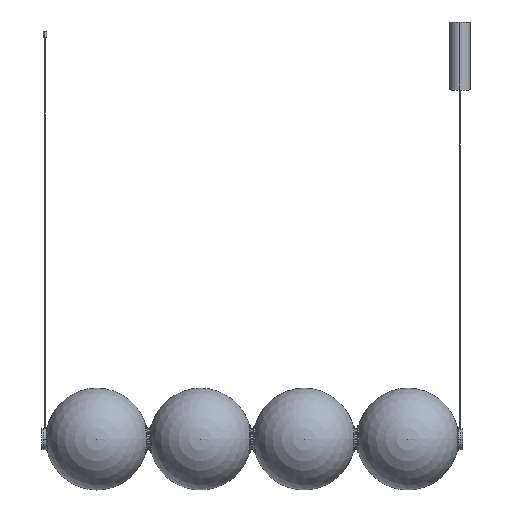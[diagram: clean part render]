
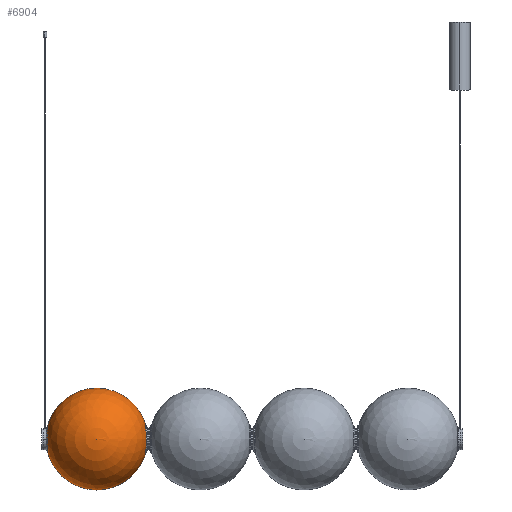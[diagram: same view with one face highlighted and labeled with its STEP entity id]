
A CAD part, top view. The second image highlights one B-rep face of the part: STEP entity #6904.
In plain terms, the highlighted spherical face has radius 150 mm.
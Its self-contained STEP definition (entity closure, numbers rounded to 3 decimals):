
#629 = VERTEX_POINT ( 'NONE', #648 ) ;
#641 = DIRECTION ( 'NONE',  ( 1., 0., 0. ) ) ;
#648 = CARTESIAN_POINT ( 'NONE',  ( 0., 150., 0. ) ) ;
#961 = VERTEX_POINT ( 'NONE', #3945 ) ;
#1303 = DIRECTION ( 'NONE',  ( 0., 0., 1. ) ) ;
#1385 = EDGE_LOOP ( 'NONE', ( #5645, #5857 ) ) ;
#1853 = FACE_OUTER_BOUND ( 'NONE', #1385, .T. ) ;
#2152 = CIRCLE ( 'NONE', #5345, 150. ) ;
#2240 = DIRECTION ( 'NONE',  ( -1., 0., 0. ) ) ;
#2959 = CIRCLE ( 'NONE', #4497, 150. ) ;
#3339 = EDGE_CURVE ( 'NONE', #629, #961, #2959, .T. ) ;
#3524 = DIRECTION ( 'NONE',  ( 0., 0., -1. ) ) ;
#3781 = SPHERICAL_SURFACE ( 'NONE', #6852, 150. ) ;
#3945 = CARTESIAN_POINT ( 'NONE',  ( 0., -150., 0. ) ) ;
#4287 = DIRECTION ( 'NONE',  ( 0., 0., 1. ) ) ;
#4497 = AXIS2_PLACEMENT_3D ( 'NONE', #7867, #4287, #641 ) ;
#4858 = CARTESIAN_POINT ( 'NONE',  ( 0., 0., 0. ) ) ;
#5345 = AXIS2_PLACEMENT_3D ( 'NONE', #7752, #3524, #2240 ) ;
#5453 = DIRECTION ( 'NONE',  ( 1., 0., 0. ) ) ;
#5645 = ORIENTED_EDGE ( 'NONE', *, *, #6078, .F. ) ;
#5857 = ORIENTED_EDGE ( 'NONE', *, *, #3339, .T. ) ;
#6078 = EDGE_CURVE ( 'NONE', #629, #961, #2152, .T. ) ;
#6852 = AXIS2_PLACEMENT_3D ( 'NONE', #4858, #1303, #5453 ) ;
#6904 = ADVANCED_FACE ( 'NONE', ( #1853 ), #3781, .T. ) ;
#7752 = CARTESIAN_POINT ( 'NONE',  ( 0., 0., 0. ) ) ;
#7867 = CARTESIAN_POINT ( 'NONE',  ( 0., 0., 0. ) ) ;
